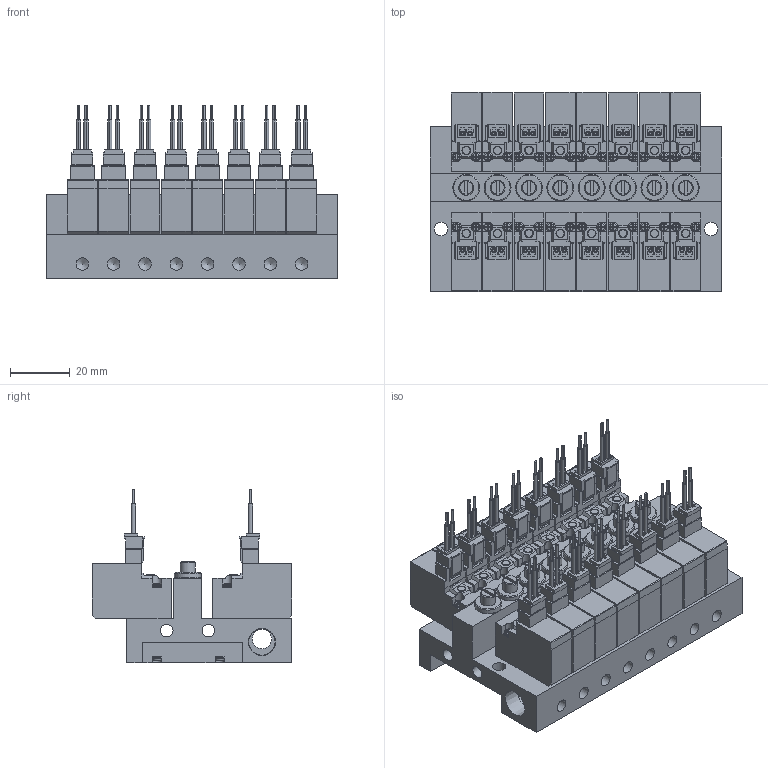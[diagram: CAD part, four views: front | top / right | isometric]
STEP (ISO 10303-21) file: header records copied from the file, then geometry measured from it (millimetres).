
FILE_DESCRIPTION(('STEP AP203'),'1');
FILE_NAME('1-NO(NC)-4EZ-M08.stp','2025-05-08T08:55:09',(' '),(' '),'Spatial InterOp 3D',' ',' ');
FILE_SCHEMA(('CONFIG_CONTROL_DESIGN'));
Length unit declared in the file: millimetre
Products named in the file (122): PV1※1-NO(NC)-4EZ-M08; BODY; PLATE; NEEDLE; BOLT; SOLENOID VALVE VOLTAGE PV; 42; 45; 48; 51
Assembly tree (121 placements, depth 3):
  PV1※1-NO(NC)-4EZ-M08
    BODY
    PLATE
    PLATE
    NEEDLE
    BOLT
    BOLT
    BOLT
    BOLT
    BOLT
    BOLT
    SOLENOID VALVE VOLTAGE PV
      42
      45
      48
      51
    SOLENOID VALVE VOLTAGE PV
      42
      45
      48
      51
    SOLENOID VALVE VOLTAGE PV
      42
      45
      48
      51
    NEEDLE
    SOLENOID VALVE VOLTAGE PV
      42
      45
      48
      51
    SOLENOID VALVE VOLTAGE PV
      42
      45
      48
      51
    NEEDLE
    SOLENOID VALVE VOLTAGE PV
      42
      45
      48
      51
    PLATE
    BOLT
    BOLT
    BOLT
    PLATE
    BOLT
    BOLT
    BOLT
    SOLENOID VALVE VOLTAGE PV
      42
      45
      48
      51
    NEEDLE
    SOLENOID VALVE VOLTAGE PV
      42
      45
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Bounding box: 97.5 x 66.8 x 58.25 mm (x, y, z)
Volume: 156015.6 mm3; surface area: 88266.1 mm2
Topology: 105 solids, 105 shells, 3857 faces, 10958 edges, 7561 vertices
Faces by surface type: plane 2720, cylinder 767, torus 208, bspline 112, cone 50
Full cylindrical faces by diameter (mm): 2 x24, 3 x24, 4.2 x18, 4.5 x2, 5 x8, 6.5 x1, 8.797 x2, 9 x8
Entity records: 133466 total; most frequent: CARTESIAN_POINT 24399, DIRECTION 21914, ORIENTED_EDGE 21400, EDGE_CURVE 10700, AXIS2_PLACEMENT_3D 7587, VERTEX_POINT 7480, LINE 6740, VECTOR 6740
